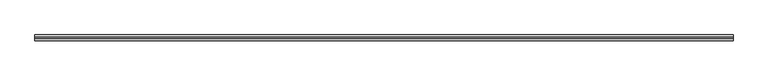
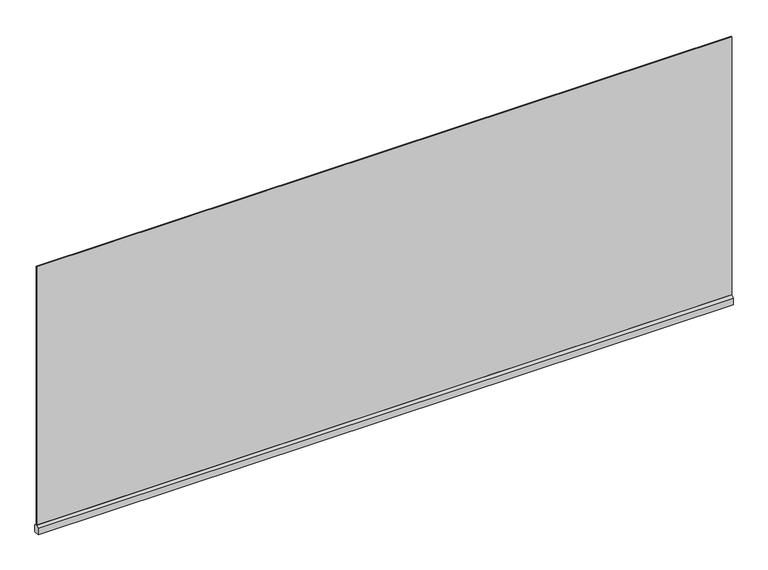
"""IFC4 building model written with IfcOpenShell, lengths in millimetres: proxy geometry, Renson_Amani_Fixscreen : Renson_Amani_Fixscreen."""

from ifc_helpers import new_model, si_unit, frame, origin, place, context, project, spatial, polyline, outline, extrude, source, transform, mapped, element, save


def generic_models_e86c0f30(model_context):
    return source(origin(), model_context, "Body", "SweptSolid", [
        extrude(outline(polyline([(-15.0, 800.0), (-15.0, 837.0), (-1.5, 846.0), (1.5, 846.0), (15.0, 837.0), (15.0, 800.0), (-15.0, 800.0)])), frame((-1850.0, 0.0, 0.0), z_axis=(1.0, 0.0, 0.0), x_axis=(0.0, 1.0, 0.0)), (0.0, 0.0, 1.0), 3700.0),
        extrude(outline(polyline([(1850.0, 1.5), (1850.0, -1.5), (-1850.0, -1.5), (-1850.0, 1.5), (1850.0, 1.5)])), frame((0.0, 0.0, 846.0), z_axis=(0.0, 0.0, 1.0), x_axis=(1.0, 0.0, 0.0)), (0.0, 0.0, 1.0), 1454.0),
    ])


if __name__ == "__main__":
    model = new_model("IFC4")
    model_context = context("Model", 3, world=origin())
    ifc_project = project(units=[si_unit("LENGTHUNIT", "METRE", prefix="MILLI")], contexts=[model_context])
    site = spatial("IfcSite", under=ifc_project)
    building = spatial("IfcBuilding", under=site)
    placement = place(None, origin())
    generic_models_shape = generic_models_e86c0f30(model_context)
    element("IfcBuildingElementProxy", 1, Name="Renson_Amani_Fixscreen : Renson_Amani_Fixscreen", ObjectType="Renson_Amani_Fixscreen : Renson_Amani_Fixscreen", at=placement, inside=building, context=model_context, shape_type="MappedRepresentation", body=[
        mapped(generic_models_shape, transform((0.0, 0.0, 0.0), x_axis=(1.0, 0.0, 0.0), y_axis=(0.0, 1.0, 0.0), z_axis=(0.0, 0.0, 1.0))),
    ])
    save(model, "model.ifc")
